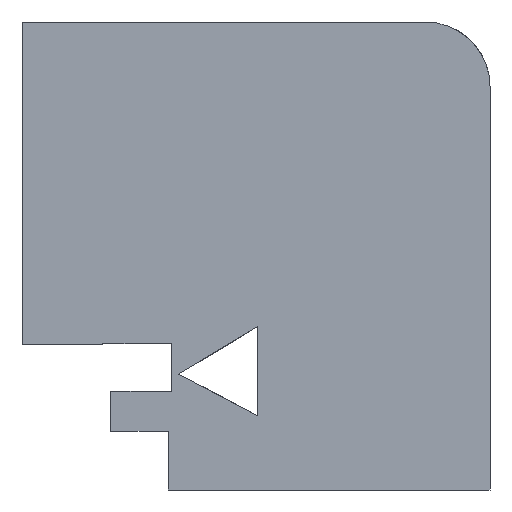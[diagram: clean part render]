
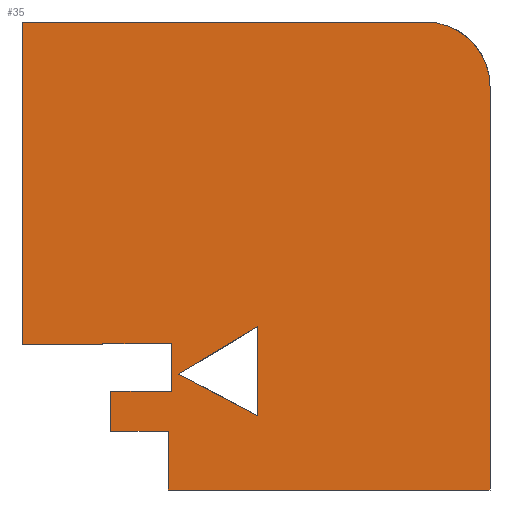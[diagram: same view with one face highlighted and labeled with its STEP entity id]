
A CAD part, front view. The second image highlights one B-rep face of the part: STEP entity #35.
In plain terms, the highlighted planar face has unit normal (0, -1, 0).
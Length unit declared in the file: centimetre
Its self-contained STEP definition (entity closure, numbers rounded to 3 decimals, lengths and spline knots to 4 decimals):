
#25 = CIRCLE ( 'NONE', #1565, 138.075 ) ;
#32 = EDGE_CURVE ( 'NONE', #364, #518, #1487, .T. ) ;
#34 = LINE ( 'NONE', #987, #1764 ) ;
#35 = ADVANCED_FACE ( 'NONE', ( #527, #202 ), #45, .F. ) ;
#37 = ORIENTED_EDGE ( 'NONE', *, *, #1598, .T. ) ;
#45 = PLANE ( 'NONE',  #533 ) ;
#48 = ORIENTED_EDGE ( 'NONE', *, *, #183, .T. ) ;
#67 = LINE ( 'NONE', #1812, #750 ) ;
#107 = CARTESIAN_POINT ( 'NONE',  ( 319.7244, 0., 211.2248 ) ) ;
#127 = VECTOR ( 'NONE', #1118, 100. ) ;
#131 = CARTESIAN_POINT ( 'NONE',  ( 0., 0., 311.7054 ) ) ;
#144 = LINE ( 'NONE', #768, #656 ) ;
#152 = LINE ( 'NONE', #1150, #1356 ) ;
#176 = CARTESIAN_POINT ( 'NONE',  ( 189.5319, 0., 211.2248 ) ) ;
#180 = DIRECTION ( 'NONE',  ( 0., 0., -1. ) ) ;
#183 = EDGE_CURVE ( 'NONE', #607, #1441, #603, .T. ) ;
#188 = CARTESIAN_POINT ( 'NONE',  ( 335.2071, 0., 247.7168 ) ) ;
#194 = VERTEX_POINT ( 'NONE', #1091 ) ;
#202 = FACE_BOUND ( 'NONE', #1897, .T. ) ;
#218 = DIRECTION ( 'NONE',  ( 1., 0., 0. ) ) ;
#220 = DIRECTION ( 'NONE',  ( -1., 0., 0. ) ) ;
#232 = CARTESIAN_POINT ( 'NONE',  ( 319.7244, 0., 312.2367 ) ) ;
#332 = VERTEX_POINT ( 'NONE', #1981 ) ;
#344 = ORIENTED_EDGE ( 'NONE', *, *, #1392, .T. ) ;
#355 = DIRECTION ( 'NONE',  ( 0., 0., -1. ) ) ;
#364 = VERTEX_POINT ( 'NONE', #1166 ) ;
#369 = VERTEX_POINT ( 'NONE', #1463 ) ;
#370 = DIRECTION ( 'NONE',  ( 1., 0., 0. ) ) ;
#383 = CARTESIAN_POINT ( 'NONE',  ( 504.1263, 0., 158.6686 ) ) ;
#414 = CARTESIAN_POINT ( 'NONE',  ( 172.4425, 0., 312.2367 ) ) ;
#419 = CARTESIAN_POINT ( 'NONE',  ( 1000., 0., 861.925 ) ) ;
#422 = CARTESIAN_POINT ( 'NONE',  ( 504.1263, 0., 349.481 ) ) ;
#430 = ORIENTED_EDGE ( 'NONE', *, *, #1504, .T. ) ;
#435 = VERTEX_POINT ( 'NONE', #232 ) ;
#442 = ORIENTED_EDGE ( 'NONE', *, *, #1047, .T. ) ;
#463 = EDGE_CURVE ( 'NONE', #2002, #332, #884, .T. ) ;
#473 = ORIENTED_EDGE ( 'NONE', *, *, #463, .F. ) ;
#490 = EDGE_CURVE ( 'NONE', #903, #1813, #2022, .T. ) ;
#510 = EDGE_CURVE ( 'NONE', #2049, #2002, #1818, .T. ) ;
#518 = VERTEX_POINT ( 'NONE', #131 ) ;
#527 = FACE_OUTER_BOUND ( 'NONE', #1227, .T. ) ;
#531 = VECTOR ( 'NONE', #1906, 100. ) ;
#533 = AXIS2_PLACEMENT_3D ( 'NONE', #679, #977, #1808 ) ;
#537 = CARTESIAN_POINT ( 'NONE',  ( 312.6412, 0., 0. ) ) ;
#561 = CARTESIAN_POINT ( 'NONE',  ( 504.1263, 0., 349.481 ) ) ;
#603 = LINE ( 'NONE', #1743, #127 ) ;
#607 = VERTEX_POINT ( 'NONE', #1405 ) ;
#608 = CARTESIAN_POINT ( 'NONE',  ( 0., 0., 0. ) ) ;
#612 = DIRECTION ( 'NONE',  ( 0., 0., 1. ) ) ;
#656 = VECTOR ( 'NONE', #612, 100. ) ;
#662 = VECTOR ( 'NONE', #180, 100. ) ;
#679 = CARTESIAN_POINT ( 'NONE',  ( 0., 0., 1000. ) ) ;
#684 = CARTESIAN_POINT ( 'NONE',  ( 861.925, 0., 1000. ) ) ;
#694 = CARTESIAN_POINT ( 'NONE',  ( 0., 0., 311.7054 ) ) ;
#733 = DIRECTION ( 'NONE',  ( -0.857, 0., -0.516 ) ) ;
#750 = VECTOR ( 'NONE', #218, 100. ) ;
#768 = CARTESIAN_POINT ( 'NONE',  ( 172.4425, 0., 211.2248 ) ) ;
#786 = LINE ( 'NONE', #1249, #1418 ) ;
#797 = CARTESIAN_POINT ( 'NONE',  ( 172.4425, 0., 211.2248 ) ) ;
#798 = VECTOR ( 'NONE', #1045, 100. ) ;
#831 = ORIENTED_EDGE ( 'NONE', *, *, #1990, .F. ) ;
#851 = CARTESIAN_POINT ( 'NONE',  ( 102.2411, 0., 125.1705 ) ) ;
#870 = VECTOR ( 'NONE', #733, 100. ) ;
#873 = VERTEX_POINT ( 'NONE', #684 ) ;
#884 = LINE ( 'NONE', #561, #870 ) ;
#889 = VECTOR ( 'NONE', #220, 100. ) ;
#890 = CARTESIAN_POINT ( 'NONE',  ( 189.5319, 0., 125.1705 ) ) ;
#903 = VERTEX_POINT ( 'NONE', #890 ) ;
#925 = EDGE_CURVE ( 'NONE', #194, #518, #1363, .T. ) ;
#977 = DIRECTION ( 'NONE',  ( 0., 1., 0. ) ) ;
#987 = CARTESIAN_POINT ( 'NONE',  ( 319.7244, 0., 211.2248 ) ) ;
#1000 = ORIENTED_EDGE ( 'NONE', *, *, #1349, .T. ) ;
#1045 = DIRECTION ( 'NONE',  ( 0., 0., 1. ) ) ;
#1047 = EDGE_CURVE ( 'NONE', #1441, #369, #1737, .T. ) ;
#1091 = CARTESIAN_POINT ( 'NONE',  ( 172.4425, 0., 311.7054 ) ) ;
#1095 = DIRECTION ( 'NONE',  ( 1., 0., 0. ) ) ;
#1118 = DIRECTION ( 'NONE',  ( 0., 0., -1. ) ) ;
#1125 = VECTOR ( 'NONE', #1616, 100. ) ;
#1150 = CARTESIAN_POINT ( 'NONE',  ( 1000., 0., 1000. ) ) ;
#1166 = CARTESIAN_POINT ( 'NONE',  ( 0., 0., 1000. ) ) ;
#1201 = CARTESIAN_POINT ( 'NONE',  ( 189.5319, 0., 115.0431 ) ) ;
#1222 = EDGE_CURVE ( 'NONE', #1599, #1813, #1755, .T. ) ;
#1227 = EDGE_LOOP ( 'NONE', ( #1656, #37, #1000, #2017, #1874, #1256, #344, #48, #442, #1796, #430, #831, #1313 ) ) ;
#1246 = EDGE_CURVE ( 'NONE', #1334, #369, #152, .T. ) ;
#1249 = CARTESIAN_POINT ( 'NONE',  ( 0., 0., 1000. ) ) ;
#1256 = ORIENTED_EDGE ( 'NONE', *, *, #490, .F. ) ;
#1282 = DIRECTION ( 'NONE',  ( 0., 0., -1. ) ) ;
#1313 = ORIENTED_EDGE ( 'NONE', *, *, #32, .T. ) ;
#1317 = LINE ( 'NONE', #188, #1976 ) ;
#1321 = LINE ( 'NONE', #851, #1528 ) ;
#1334 = VERTEX_POINT ( 'NONE', #419 ) ;
#1349 = EDGE_CURVE ( 'NONE', #1924, #435, #67, .T. ) ;
#1356 = VECTOR ( 'NONE', #355, 100. ) ;
#1363 = LINE ( 'NONE', #694, #889 ) ;
#1382 = CARTESIAN_POINT ( 'NONE',  ( 504.1263, 0., 158.6686 ) ) ;
#1383 = ORIENTED_EDGE ( 'NONE', *, *, #510, .F. ) ;
#1392 = EDGE_CURVE ( 'NONE', #903, #607, #1321, .T. ) ;
#1405 = CARTESIAN_POINT ( 'NONE',  ( 312.6412, 0., 125.1705 ) ) ;
#1418 = VECTOR ( 'NONE', #1095, 100. ) ;
#1430 = VECTOR ( 'NONE', #1681, 100. ) ;
#1432 = EDGE_CURVE ( 'NONE', #332, #2049, #1317, .T. ) ;
#1437 = EDGE_CURVE ( 'NONE', #435, #1599, #34, .T. ) ;
#1441 = VERTEX_POINT ( 'NONE', #537 ) ;
#1463 = CARTESIAN_POINT ( 'NONE',  ( 1000., 0., 0. ) ) ;
#1486 = DIRECTION ( 'NONE',  ( 0.885, 0., -0.466 ) ) ;
#1487 = LINE ( 'NONE', #1970, #662 ) ;
#1504 = EDGE_CURVE ( 'NONE', #1334, #873, #25, .T. ) ;
#1528 = VECTOR ( 'NONE', #370, 100. ) ;
#1565 = AXIS2_PLACEMENT_3D ( 'NONE', #1773, #1982, #1946 ) ;
#1598 = EDGE_CURVE ( 'NONE', #194, #1924, #144, .T. ) ;
#1599 = VERTEX_POINT ( 'NONE', #107 ) ;
#1616 = DIRECTION ( 'NONE',  ( -1., 0., 0. ) ) ;
#1656 = ORIENTED_EDGE ( 'NONE', *, *, #925, .F. ) ;
#1681 = DIRECTION ( 'NONE',  ( 0., 0., 1. ) ) ;
#1737 = LINE ( 'NONE', #608, #531 ) ;
#1743 = CARTESIAN_POINT ( 'NONE',  ( 312.6412, 0., 0. ) ) ;
#1755 = LINE ( 'NONE', #797, #1125 ) ;
#1764 = VECTOR ( 'NONE', #1282, 100. ) ;
#1773 = CARTESIAN_POINT ( 'NONE',  ( 861.925, 0., 861.925 ) ) ;
#1796 = ORIENTED_EDGE ( 'NONE', *, *, #1246, .F. ) ;
#1808 = DIRECTION ( 'NONE',  ( 0., 0., 1. ) ) ;
#1812 = CARTESIAN_POINT ( 'NONE',  ( 172.4425, 0., 312.2367 ) ) ;
#1813 = VERTEX_POINT ( 'NONE', #176 ) ;
#1818 = LINE ( 'NONE', #383, #1430 ) ;
#1874 = ORIENTED_EDGE ( 'NONE', *, *, #1222, .T. ) ;
#1897 = EDGE_LOOP ( 'NONE', ( #2024, #473, #1383 ) ) ;
#1906 = DIRECTION ( 'NONE',  ( 1., 0., 0. ) ) ;
#1924 = VERTEX_POINT ( 'NONE', #414 ) ;
#1946 = DIRECTION ( 'NONE',  ( 0., 0., 1. ) ) ;
#1970 = CARTESIAN_POINT ( 'NONE',  ( 0., 0., 1000. ) ) ;
#1976 = VECTOR ( 'NONE', #1486, 100. ) ;
#1981 = CARTESIAN_POINT ( 'NONE',  ( 335.2071, 0., 247.7168 ) ) ;
#1982 = DIRECTION ( 'NONE',  ( 0., -1., 0. ) ) ;
#1990 = EDGE_CURVE ( 'NONE', #364, #873, #786, .T. ) ;
#2002 = VERTEX_POINT ( 'NONE', #422 ) ;
#2017 = ORIENTED_EDGE ( 'NONE', *, *, #1437, .T. ) ;
#2022 = LINE ( 'NONE', #1201, #798 ) ;
#2024 = ORIENTED_EDGE ( 'NONE', *, *, #1432, .F. ) ;
#2049 = VERTEX_POINT ( 'NONE', #1382 ) ;
